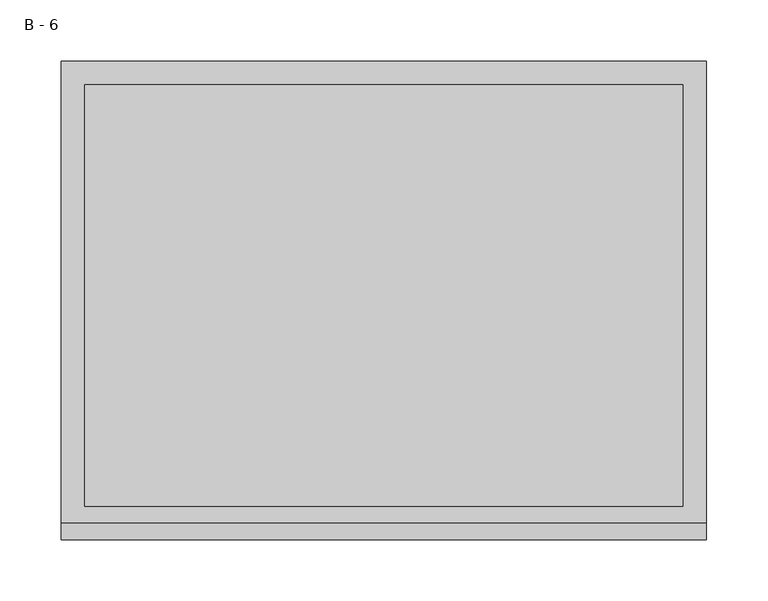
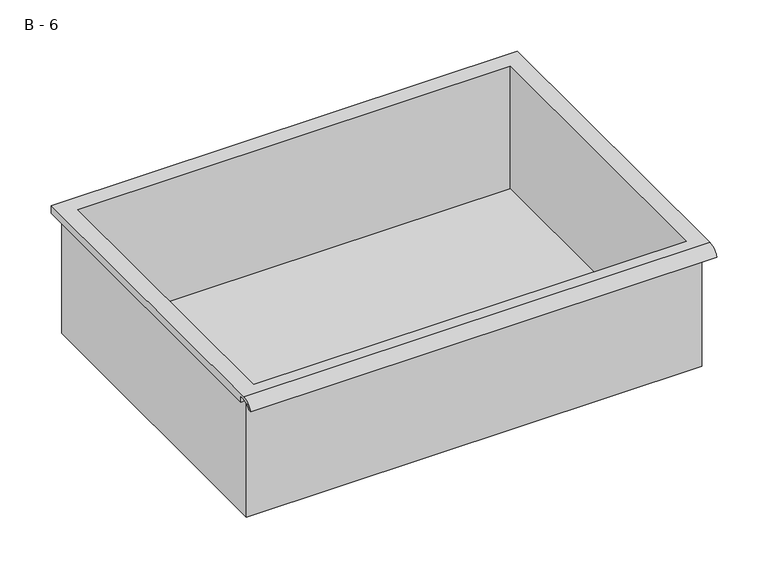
"""IFC4 building model written with IfcOpenShell, lengths in millimetres: furniture geometry, HermanMiller_CoStruc_CO207_Drawer : B - 6."""

from ifc_helpers import new_model, si_unit, frame, origin, place, context, project, spatial, polyline, circle_curve, source, transform, mapped, element, save
from ifc_brep_helpers import plane_surface, cylinder_surface, revolved_surface, advanced_brep


def b_6_334becb9(model_context):
    return source(origin(), model_context, "Body", "AdvancedBrep", [
        advanced_brep(
        [(-257.1076517, -176.2125, 649.3002), (257.2423483, -176.2125, 649.3002), (257.2423483, -176.2125, 789.0002), (263.5923483, -176.2125, 789.0002), (263.5923483, -176.2125, 795.3073341), (-263.4576517, -176.2125, 795.3073341), (-263.4576517, -176.2125, 789.0002), (-257.1076517, -176.2125, 789.0002), (257.2423483, 185.7375, 649.3002), (-257.1076517, 185.7375, 649.3002), (-257.1076517, 185.7375, 789.0002), (257.2423483, 185.7375, 789.0002), (263.5923483, -181.6070544, 798.5252), (263.5923483, 195.2625, 798.5252), (-263.4576517, 195.2625, 798.5252), (-263.4576517, -181.6070544, 798.5252), (244.5423483, -168.275, 798.5252), (-244.4076517, -168.275, 798.5252), (-244.4076517, 176.2125, 798.5252), (244.5423483, 176.2125, 798.5252), (263.5923483, -195.2625, 789.0002), (263.5923483, -191.8280601, 789.0002), (263.5923483, -180.4714815, 795.3073341), (263.5923483, 195.2625, 789.0002), (-263.4576517, 195.2625, 789.0002), (-263.4576517, -180.4714815, 795.3073341), (-263.4576517, -191.8280601, 789.0002), (-263.4576517, -195.2625, 789.0002), (-244.4076517, -168.275, 652.3263719), (244.5423483, -168.275, 652.3263719), (244.5423483, 176.2125, 652.3263719), (-244.4076517, 176.2125, 652.3263719)],
        [
            (0, 1),
            (1, 2),
            (2, 3),
            (3, 4),
            (4, 5),
            (5, 6),
            (6, 7),
            (7, 0),
            (8, 9),
            (9, 10),
            (10, 11),
            (11, 8),
            (0, 9),
            (8, 1),
            (11, 2),
            (12, 13),
            (13, 14),
            (14, 15),
            (15, 12),
            (16, 17),
            (17, 18),
            (18, 19),
            (19, 16),
            (7, 10),
            (12, 20, circle_curve(frame((263.5923483, -181.6070544, 783.9741859), z_axis=(1.0, 0.0, 0.0), x_axis=(0.0, 1.0, 0.0)), 14.5510141)),
            (20, 21),
            (21, 22, circle_curve(frame((263.5923483, -181.6070544, 783.9741859), z_axis=(-1.0, 0.0, 0.0), x_axis=(0.0, 1.0, 0.0)), 11.3898979)),
            (22, 4),
            (3, 23),
            (23, 13),
            (14, 24),
            (24, 6),
            (5, 25),
            (25, 26, circle_curve(frame((-263.4576517, -181.6070544, 783.9741859), z_axis=(1.0, 0.0, 0.0), x_axis=(0.0, 1.0, 0.0)), 11.3898979)),
            (26, 27),
            (27, 15, circle_curve(frame((-263.4576517, -181.6070544, 783.9741859), z_axis=(-1.0, 0.0, 0.0), x_axis=(0.0, 1.0, 0.0)), 14.5510141)),
            (27, 20),
            (26, 21),
            (25, 22),
            (24, 23),
            (28, 29),
            (29, 30),
            (30, 31),
            (31, 28),
            (28, 17),
            (16, 29),
            (19, 30),
            (18, 31),
        ],
        [
            plane_surface(frame((257.2423483, -176.2125, 649.3002), z_axis=(0.0, -1.0, 0.0), x_axis=(1.0, 0.0, 0.0))),
            plane_surface(frame((257.2423483, 185.7375, 649.3002), z_axis=(0.0, 1.0, 0.0), x_axis=(-1.0, 0.0, 0.0))),
            plane_surface(frame((-257.1076517, -176.2125, 649.3002), z_axis=(0.0, 0.0, -1.0), x_axis=(0.0, 1.0, 0.0))),
            plane_surface(frame((257.2423483, -176.2125, 649.3002), z_axis=(1.0, 0.0, 0.0), x_axis=(0.0, 1.0, 0.0))),
            plane_surface(frame((257.2423483, -176.2125, 798.5252), z_axis=(0.0, 0.0, 1.0), x_axis=(0.0, 1.0, 0.0))),
            plane_surface(frame((-257.1076517, -176.2125, 798.5252), z_axis=(-1.0, 0.0, 0.0), x_axis=(0.0, 1.0, 0.0))),
            plane_surface(frame((263.5923483, 195.2625, 798.5252), z_axis=(1.0, 0.0, 0.0), x_axis=(0.0, -1.0, 0.0))),
            plane_surface(frame((-263.4576517, 195.2625, 798.5252), z_axis=(-1.0, 0.0, 0.0), x_axis=(0.0, 1.0, 0.0))),
            cylinder_surface(frame((-263.4576517, -181.6070544, 783.9741859), z_axis=(1.0, 0.0, 0.0), x_axis=(0.0, 1.0, 0.0)), 14.5510141),
            plane_surface(frame((263.5923483, -195.2625, 789.0002), z_axis=(0.0, -7.291233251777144e-12, -1.0), x_axis=(-1.0, 0.0, 0.0))),
            revolved_surface(polyline([(-263.4576517, -170.21715650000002, 783.9741859), (263.59234829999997, -170.21715650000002, 783.9741859)]), (-263.4576517, -181.6070544, 783.9741859), (-1.0, 0.0, 0.0)),
            plane_surface(frame((263.5923483, -180.4714815, 795.3073341), z_axis=(0.0, -1.7988537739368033e-11, -1.0), x_axis=(-1.0, 0.0, 0.0))),
            plane_surface(frame((263.5923483, -176.2125, 789.0002), z_axis=(0.0, 0.0, -1.0), x_axis=(-1.0, 0.0, 0.0))),
            plane_surface(frame((263.5923483, 195.2625, 789.0002), z_axis=(0.0, 1.0, 0.0), x_axis=(-1.0, 0.0, 0.0))),
            plane_surface(frame((244.5423483, -168.275, 652.3263719), z_axis=(0.0, 0.0, 1.0), x_axis=(-1.0, 0.0, 0.0))),
            plane_surface(frame((-244.4076517, -168.275, 798.5252), z_axis=(0.0, 1.0, 0.0), x_axis=(0.0, 0.0, -1.0))),
            plane_surface(frame((244.5423483, -168.275, 798.5252), z_axis=(-1.0, 0.0, 0.0), x_axis=(0.0, 0.0, -1.0))),
            plane_surface(frame((244.5423483, 176.2125, 798.5252), z_axis=(0.0, -1.0, 0.0), x_axis=(0.0, 0.0, -1.0))),
            plane_surface(frame((-244.4076517, 176.2125, 798.5252), z_axis=(1.0, 0.0, 0.0), x_axis=(0.0, 0.0, -1.0))),
        ],
        [
            (0, [[1, 2, 3, 4, 5, 6, 7, 8]]),
            (1, [[9, 10, 11, 12]]),
            (2, [[-1, 13, -9, 14]]),
            (3, [[-14, -12, 15, -2]]),
            (4, [[16, 17, 18, 19], [20, 21, 22, 23]]),
            (5, [[-13, -8, 24, -10]]),
            (6, [[-16, 25, 26, 27, 28, -4, 29, 30]]),
            (7, [[31, 32, -6, 33, 34, 35, 36, -18]]),
            (8, [[-25, -19, -36, 37]]),
            (9, [[-26, -37, -35, 38]]),
            (10, [[-27, -38, -34, 39]]),
            (11, [[-28, -39, -33, -5]]),
            (12, [[-29, -3, -15, -11, -24, -7, -32, 40]]),
            (13, [[-30, -40, -31, -17]]),
            (14, [[41, 42, 43, 44]]),
            (15, [[-41, 45, -20, 46]]),
            (16, [[-42, -46, -23, 47]]),
            (17, [[-43, -47, -22, 48]]),
            (18, [[-44, -48, -21, -45]]),
        ],
    ),
    ])


if __name__ == "__main__":
    model = new_model("IFC4")
    model_context = context("Model", 3, world=origin())
    ifc_project = project(units=[si_unit("LENGTHUNIT", "METRE", prefix="MILLI")], contexts=[model_context])
    site = spatial("IfcSite", under=ifc_project)
    building = spatial("IfcBuilding", under=site)
    placement = place(None, origin())
    b_6_shape = b_6_334becb9(model_context)
    element("IfcFurniture", 1, ObjectType="HermanMiller_CoStruc_CO207_Drawer : B - 6", at=placement, inside=building, context=model_context, shape_type="MappedRepresentation", body=[
        mapped(b_6_shape, transform((0.0, 0.0, 0.0), x_axis=(1.0, 0.0, 0.0), y_axis=(0.0, 1.0, 0.0), z_axis=(0.0, 0.0, 1.0))),
    ])
    save(model, "model.ifc")
